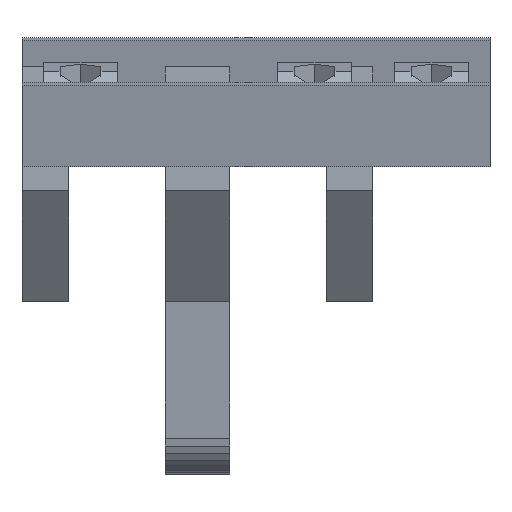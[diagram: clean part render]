
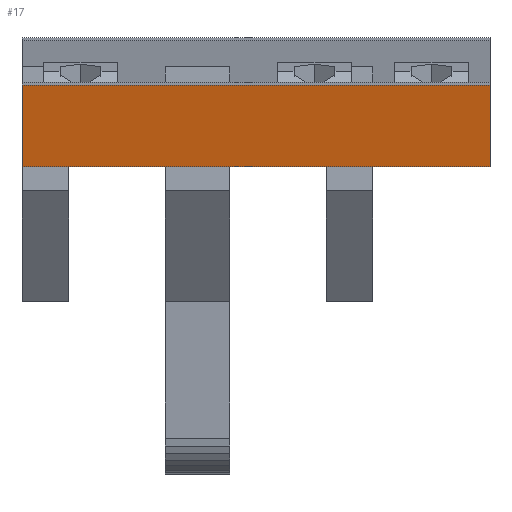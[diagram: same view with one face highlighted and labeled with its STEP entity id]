
A CAD part, left-side view. The second image highlights one B-rep face of the part: STEP entity #17.
In plain terms, the highlighted planar face has unit normal (-0.976, 0, -0.216).
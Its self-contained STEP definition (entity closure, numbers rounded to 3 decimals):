
#17 = ADVANCED_FACE('',(#18),#32,.F.);
#18 = FACE_BOUND('',#19,.F.);
#19 = EDGE_LOOP('',(#20,#55,#83,#111));
#20 = ORIENTED_EDGE('',*,*,#21,.F.);
#21 = EDGE_CURVE('',#22,#24,#26,.T.);
#22 = VERTEX_POINT('',#23);
#23 = CARTESIAN_POINT('',(1.836,-29.3,-208.804));
#24 = VERTEX_POINT('',#25);
#25 = CARTESIAN_POINT('',(-2.093,-29.3,-191.085));
#26 = SURFACE_CURVE('',#27,(#31,#43),.PCURVE_S1.);
#27 = LINE('',#28,#29);
#28 = CARTESIAN_POINT('',(1.836,-29.3,-208.804));
#29 = VECTOR('',#30,1.);
#30 = DIRECTION('',(-0.216,0.,0.976));
#31 = PCURVE('',#32,#37);
#32 = PLANE('',#33);
#33 = AXIS2_PLACEMENT_3D('',#34,#35,#36);
#34 = CARTESIAN_POINT('',(1.836,-29.3,-208.804));
#35 = DIRECTION('',(0.976,0.,0.216));
#36 = DIRECTION('',(-0.216,0.,0.976));
#37 = DEFINITIONAL_REPRESENTATION('',(#38),#42);
#38 = LINE('',#39,#40);
#39 = CARTESIAN_POINT('',(0.,0.));
#40 = VECTOR('',#41,1.);
#41 = DIRECTION('',(1.,0.));
#42 = ( GEOMETRIC_REPRESENTATION_CONTEXT(2) 
PARAMETRIC_REPRESENTATION_CONTEXT() REPRESENTATION_CONTEXT('2D SPACE',''
  ) );
#43 = PCURVE('',#44,#49);
#44 = PLANE('',#45);
#45 = AXIS2_PLACEMENT_3D('',#46,#47,#48);
#46 = CARTESIAN_POINT('',(1.836,-29.3,-208.804));
#47 = DIRECTION('',(0.,1.,0.));
#48 = DIRECTION('',(-0.216,0.,0.976));
#49 = DEFINITIONAL_REPRESENTATION('',(#50),#54);
#50 = LINE('',#51,#52);
#51 = CARTESIAN_POINT('',(0.,0.));
#52 = VECTOR('',#53,1.);
#53 = DIRECTION('',(1.,0.));
#54 = ( GEOMETRIC_REPRESENTATION_CONTEXT(2) 
PARAMETRIC_REPRESENTATION_CONTEXT() REPRESENTATION_CONTEXT('2D SPACE',''
  ) );
#55 = ORIENTED_EDGE('',*,*,#56,.T.);
#56 = EDGE_CURVE('',#22,#57,#59,.T.);
#57 = VERTEX_POINT('',#58);
#58 = CARTESIAN_POINT('',(1.836,72.3,-208.804));
#59 = SURFACE_CURVE('',#60,(#64,#71),.PCURVE_S1.);
#60 = LINE('',#61,#62);
#61 = CARTESIAN_POINT('',(1.836,-29.3,-208.804));
#62 = VECTOR('',#63,1.);
#63 = DIRECTION('',(0.,1.,0.));
#64 = PCURVE('',#32,#65);
#65 = DEFINITIONAL_REPRESENTATION('',(#66),#70);
#66 = LINE('',#67,#68);
#67 = CARTESIAN_POINT('',(0.,0.));
#68 = VECTOR('',#69,1.);
#69 = DIRECTION('',(0.,-1.));
#70 = ( GEOMETRIC_REPRESENTATION_CONTEXT(2) 
PARAMETRIC_REPRESENTATION_CONTEXT() REPRESENTATION_CONTEXT('2D SPACE',''
  ) );
#71 = PCURVE('',#72,#77);
#72 = PLANE('',#73);
#73 = AXIS2_PLACEMENT_3D('',#74,#75,#76);
#74 = CARTESIAN_POINT('',(1.836,-29.3,-208.804));
#75 = DIRECTION('',(-0.216,0.,0.976));
#76 = DIRECTION('',(0.976,0.,0.216));
#77 = DEFINITIONAL_REPRESENTATION('',(#78),#82);
#78 = LINE('',#79,#80);
#79 = CARTESIAN_POINT('',(0.,0.));
#80 = VECTOR('',#81,1.);
#81 = DIRECTION('',(0.,1.));
#82 = ( GEOMETRIC_REPRESENTATION_CONTEXT(2) 
PARAMETRIC_REPRESENTATION_CONTEXT() REPRESENTATION_CONTEXT('2D SPACE',''
  ) );
#83 = ORIENTED_EDGE('',*,*,#84,.F.);
#84 = EDGE_CURVE('',#85,#57,#87,.T.);
#85 = VERTEX_POINT('',#86);
#86 = CARTESIAN_POINT('',(-2.093,72.3,-191.085));
#87 = SURFACE_CURVE('',#88,(#92,#99),.PCURVE_S1.);
#88 = LINE('',#89,#90);
#89 = CARTESIAN_POINT('',(-2.093,72.3,-191.085));
#90 = VECTOR('',#91,1.);
#91 = DIRECTION('',(0.216,0.,-0.976));
#92 = PCURVE('',#32,#93);
#93 = DEFINITIONAL_REPRESENTATION('',(#94),#98);
#94 = LINE('',#95,#96);
#95 = CARTESIAN_POINT('',(18.15,-101.6));
#96 = VECTOR('',#97,1.);
#97 = DIRECTION('',(-1.,0.));
#98 = ( GEOMETRIC_REPRESENTATION_CONTEXT(2) 
PARAMETRIC_REPRESENTATION_CONTEXT() REPRESENTATION_CONTEXT('2D SPACE',''
  ) );
#99 = PCURVE('',#100,#105);
#100 = PLANE('',#101);
#101 = AXIS2_PLACEMENT_3D('',#102,#103,#104);
#102 = CARTESIAN_POINT('',(1.836,72.3,-208.804));
#103 = DIRECTION('',(0.,1.,0.));
#104 = DIRECTION('',(-0.216,0.,0.976));
#105 = DEFINITIONAL_REPRESENTATION('',(#106),#110);
#106 = LINE('',#107,#108);
#107 = CARTESIAN_POINT('',(18.15,0.));
#108 = VECTOR('',#109,1.);
#109 = DIRECTION('',(-1.,0.));
#110 = ( GEOMETRIC_REPRESENTATION_CONTEXT(2) 
PARAMETRIC_REPRESENTATION_CONTEXT() REPRESENTATION_CONTEXT('2D SPACE',''
  ) );
#111 = ORIENTED_EDGE('',*,*,#112,.F.);
#112 = EDGE_CURVE('',#24,#85,#113,.T.);
#113 = SURFACE_CURVE('',#114,(#118,#125),.PCURVE_S1.);
#114 = LINE('',#115,#116);
#115 = CARTESIAN_POINT('',(-2.093,-29.3,-191.085));
#116 = VECTOR('',#117,1.);
#117 = DIRECTION('',(0.,1.,0.));
#118 = PCURVE('',#32,#119);
#119 = DEFINITIONAL_REPRESENTATION('',(#120),#124);
#120 = LINE('',#121,#122);
#121 = CARTESIAN_POINT('',(18.15,0.));
#122 = VECTOR('',#123,1.);
#123 = DIRECTION('',(0.,-1.));
#124 = ( GEOMETRIC_REPRESENTATION_CONTEXT(2) 
PARAMETRIC_REPRESENTATION_CONTEXT() REPRESENTATION_CONTEXT('2D SPACE',''
  ) );
#125 = PCURVE('',#126,#131);
#126 = PLANE('',#127);
#127 = AXIS2_PLACEMENT_3D('',#128,#129,#130);
#128 = CARTESIAN_POINT('',(-2.093,-29.3,-191.085));
#129 = DIRECTION('',(-0.216,0.,0.976));
#130 = DIRECTION('',(0.976,0.,0.216));
#131 = DEFINITIONAL_REPRESENTATION('',(#132),#136);
#132 = LINE('',#133,#134);
#133 = CARTESIAN_POINT('',(0.,0.));
#134 = VECTOR('',#135,1.);
#135 = DIRECTION('',(0.,1.));
#136 = ( GEOMETRIC_REPRESENTATION_CONTEXT(2) 
PARAMETRIC_REPRESENTATION_CONTEXT() REPRESENTATION_CONTEXT('2D SPACE',''
  ) );
